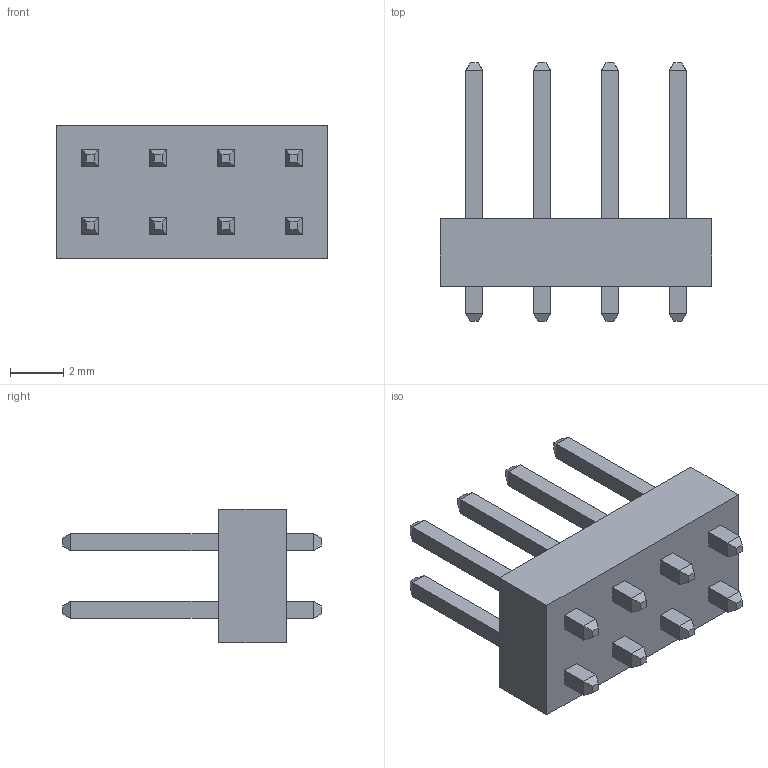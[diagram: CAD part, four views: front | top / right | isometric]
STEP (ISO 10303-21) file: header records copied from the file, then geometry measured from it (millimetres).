
FILE_DESCRIPTION (( 'STEP AP214' ), '1' );
FILE_NAME ( 'HDRV8W64P254_4X2_1016X502H838P.STEP', '2014-04-11T12:31:22', ( '' ), ( '' ), 'FPX Expert 2013', 'PCB Libraries', '' );
FILE_SCHEMA (( 'AUTOMOTIVE_DESIGN' ));
Length unit declared in the file: millimetre
Products named in the file (1): HDRV8W64P254_4X2_1016X502H838P
Bounding box: 10.16 x 9.68 x 5.02 mm (x, y, z)
Volume: 30.8 mm3; surface area: 370.3 mm2
Topology: 8 solids, 9 shells, 118 faces, 300 edges, 200 vertices
Faces by surface type: plane 118
Entity records: 3909 total; most frequent: CARTESIAN_POINT 619, DIRECTION 538, ORIENTED_EDGE 536, VECTOR 300, LINE 300, EDGE_CURVE 300, VERTEX_POINT 200, EDGE_LOOP 134
